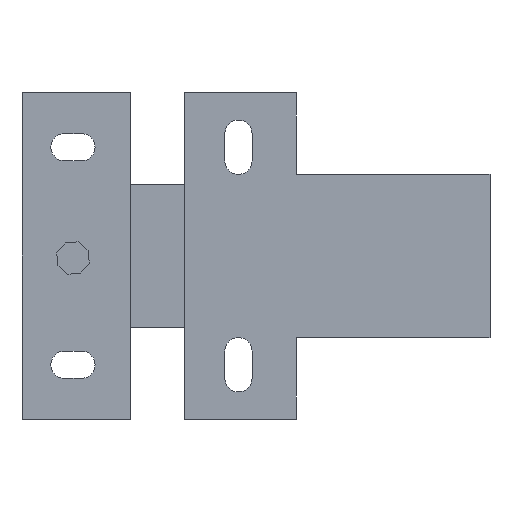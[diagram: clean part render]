
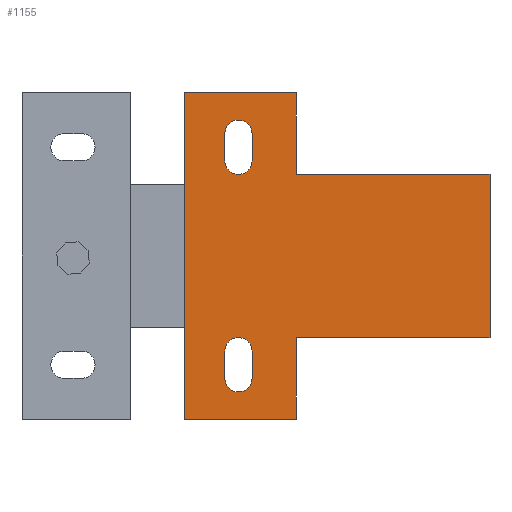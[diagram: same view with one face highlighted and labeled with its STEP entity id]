
A CAD part, front view. The second image highlights one B-rep face of the part: STEP entity #1155.
In plain terms, the highlighted planar face has unit normal (0, -1, 0).
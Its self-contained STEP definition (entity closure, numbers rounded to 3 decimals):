
#4 = DIRECTION ( 'NONE',  ( 0., -1., 0. ) ) ;
#13 = CARTESIAN_POINT ( 'NONE',  ( 24.341, 0., -2. ) ) ;
#21 = CARTESIAN_POINT ( 'NONE',  ( 24.341, 0., 2. ) ) ;
#23 = EDGE_CURVE ( 'NONE', #225, #1896, #1306, .T. ) ;
#39 = CARTESIAN_POINT ( 'NONE',  ( 24.341, 0., 30. ) ) ;
#50 = DIRECTION ( 'NONE',  ( 0., -1., 0. ) ) ;
#58 = CARTESIAN_POINT ( 'NONE',  ( 32.841, 0., -5. ) ) ;
#62 = VERTEX_POINT ( 'NONE', #1698 ) ;
#81 = DIRECTION ( 'NONE',  ( 0., 0., -1. ) ) ;
#129 = CIRCLE ( 'NONE', #1214, 2. ) ;
#154 = LINE ( 'NONE', #2039, #1863 ) ;
#180 = VERTEX_POINT ( 'NONE', #1273 ) ;
#186 = DIRECTION ( 'NONE',  ( 0., 0., -1. ) ) ;
#189 = EDGE_CURVE ( 'NONE', #180, #1955, #1186, .T. ) ;
#192 = CARTESIAN_POINT ( 'NONE',  ( 22.341, 0., -5. ) ) ;
#225 = VERTEX_POINT ( 'NONE', #298 ) ;
#232 = CARTESIAN_POINT ( 'NONE',  ( 24.341, 0., 30. ) ) ;
#253 = VECTOR ( 'NONE', #395, 1000. ) ;
#268 = CIRCLE ( 'NONE', #981, 2. ) ;
#270 = DIRECTION ( 'NONE',  ( 0., 0., -1. ) ) ;
#274 = ORIENTED_EDGE ( 'NONE', *, *, #709, .F. ) ;
#281 = ORIENTED_EDGE ( 'NONE', *, *, #1633, .F. ) ;
#295 = VECTOR ( 'NONE', #81, 1000. ) ;
#298 = CARTESIAN_POINT ( 'NONE',  ( 22.341, 0., -2. ) ) ;
#312 = DIRECTION ( 'NONE',  ( 0., 0., -1. ) ) ;
#323 = LINE ( 'NONE', #1095, #295 ) ;
#325 = CARTESIAN_POINT ( 'NONE',  ( 32.841, 0., 40. ) ) ;
#336 = CARTESIAN_POINT ( 'NONE',  ( 16.341, 0., 40. ) ) ;
#344 = CARTESIAN_POINT ( 'NONE',  ( 26.341, 0., 30. ) ) ;
#370 = ORIENTED_EDGE ( 'NONE', *, *, #1305, .F. ) ;
#388 = DIRECTION ( 'NONE',  ( 0., 0., -1. ) ) ;
#390 = CARTESIAN_POINT ( 'NONE',  ( 16.341, 0., -5. ) ) ;
#391 = EDGE_CURVE ( 'NONE', #1955, #62, #1589, .T. ) ;
#394 = LINE ( 'NONE', #1817, #253 ) ;
#395 = DIRECTION ( 'NONE',  ( 1., 0., 0. ) ) ;
#398 = LINE ( 'NONE', #58, #417 ) ;
#411 = CARTESIAN_POINT ( 'NONE',  ( 26.341, 0., -5. ) ) ;
#417 = VECTOR ( 'NONE', #270, 1000. ) ;
#444 = CARTESIAN_POINT ( 'NONE',  ( 24.341, 0., -2. ) ) ;
#451 = VECTOR ( 'NONE', #2037, 1000. ) ;
#452 = AXIS2_PLACEMENT_3D ( 'NONE', #1429, #1909, #186 ) ;
#453 = LINE ( 'NONE', #1994, #451 ) ;
#486 = ORIENTED_EDGE ( 'NONE', *, *, #494, .F. ) ;
#494 = EDGE_CURVE ( 'NONE', #1743, #1835, #825, .T. ) ;
#514 = EDGE_CURVE ( 'NONE', #62, #1717, #323, .T. ) ;
#523 = CARTESIAN_POINT ( 'NONE',  ( 32.841, 0., 28. ) ) ;
#546 = CARTESIAN_POINT ( 'NONE',  ( 29.841, 0., 28. ) ) ;
#547 = DIRECTION ( 'NONE',  ( 0., 0., 1. ) ) ;
#596 = VECTOR ( 'NONE', #1594, 1000. ) ;
#608 = ORIENTED_EDGE ( 'NONE', *, *, #514, .F. ) ;
#616 = EDGE_LOOP ( 'NONE', ( #1661, #1344, #978, #1886, #274 ) ) ;
#623 = ORIENTED_EDGE ( 'NONE', *, *, #23, .F. ) ;
#630 = DIRECTION ( 'NONE',  ( 0., -1., 0. ) ) ;
#641 = AXIS2_PLACEMENT_3D ( 'NONE', #13, #4, #1898 ) ;
#659 = EDGE_LOOP ( 'NONE', ( #852, #1462, #608, #1022, #1458, #1596, #281, #1350 ) ) ;
#661 = DIRECTION ( 'NONE',  ( 0., 0., -1. ) ) ;
#665 = VECTOR ( 'NONE', #2062, 1000. ) ;
#676 = CARTESIAN_POINT ( 'NONE',  ( 16.341, 0., -8. ) ) ;
#689 = CARTESIAN_POINT ( 'NONE',  ( 22.341, 0., 34. ) ) ;
#697 = CARTESIAN_POINT ( 'NONE',  ( 24.341, 0., -4. ) ) ;
#709 = EDGE_CURVE ( 'NONE', #866, #970, #1368, .T. ) ;
#721 = VECTOR ( 'NONE', #547, 1000. ) ;
#789 = LINE ( 'NONE', #390, #721 ) ;
#797 = CARTESIAN_POINT ( 'NONE',  ( 61.341, 0., -5. ) ) ;
#805 = EDGE_CURVE ( 'NONE', #948, #1948, #1897, .T. ) ;
#825 = CIRCLE ( 'NONE', #2017, 2. ) ;
#834 = LINE ( 'NONE', #192, #879 ) ;
#852 = ORIENTED_EDGE ( 'NONE', *, *, #1545, .F. ) ;
#866 = VERTEX_POINT ( 'NONE', #1097 ) ;
#879 = VECTOR ( 'NONE', #952, 1000. ) ;
#923 = VERTEX_POINT ( 'NONE', #325 ) ;
#932 = EDGE_CURVE ( 'NONE', #1377, #1743, #1523, .T. ) ;
#948 = VERTEX_POINT ( 'NONE', #1531 ) ;
#952 = DIRECTION ( 'NONE',  ( 0., 0., -1. ) ) ;
#969 = LINE ( 'NONE', #546, #1068 ) ;
#970 = VERTEX_POINT ( 'NONE', #344 ) ;
#978 = ORIENTED_EDGE ( 'NONE', *, *, #805, .F. ) ;
#981 = AXIS2_PLACEMENT_3D ( 'NONE', #232, #630, #388 ) ;
#996 = EDGE_CURVE ( 'NONE', #970, #948, #1757, .T. ) ;
#1006 = EDGE_CURVE ( 'NONE', #1166, #866, #268, .T. ) ;
#1018 = ORIENTED_EDGE ( 'NONE', *, *, #1813, .F. ) ;
#1020 = EDGE_CURVE ( 'NONE', #1948, #1166, #453, .T. ) ;
#1022 = ORIENTED_EDGE ( 'NONE', *, *, #391, .F. ) ;
#1053 = DIRECTION ( 'NONE',  ( 0., 1., 0. ) ) ;
#1068 = VECTOR ( 'NONE', #1608, 1000. ) ;
#1073 = PLANE ( 'NONE',  #1807 ) ;
#1095 = CARTESIAN_POINT ( 'NONE',  ( 32.841, 0., -5. ) ) ;
#1097 = CARTESIAN_POINT ( 'NONE',  ( 24.341, 0., 28. ) ) ;
#1101 = EDGE_LOOP ( 'NONE', ( #1177, #1018, #623, #370, #486 ) ) ;
#1139 = DIRECTION ( 'NONE',  ( 0., -1., 0. ) ) ;
#1155 = ADVANCED_FACE ( 'NONE', ( #1472, #2018, #1331 ), #1073, .F. ) ;
#1166 = VERTEX_POINT ( 'NONE', #1799 ) ;
#1177 = ORIENTED_EDGE ( 'NONE', *, *, #932, .F. ) ;
#1181 = DIRECTION ( 'NONE',  ( 0., 0., -1. ) ) ;
#1186 = LINE ( 'NONE', #797, #1202 ) ;
#1202 = VECTOR ( 'NONE', #312, 1000. ) ;
#1214 = AXIS2_PLACEMENT_3D ( 'NONE', #444, #1951, #1995 ) ;
#1229 = VERTEX_POINT ( 'NONE', #676 ) ;
#1273 = CARTESIAN_POINT ( 'NONE',  ( 61.341, 0., 28. ) ) ;
#1299 = CARTESIAN_POINT ( 'NONE',  ( 29.841, 0., -5. ) ) ;
#1305 = EDGE_CURVE ( 'NONE', #1835, #225, #834, .T. ) ;
#1306 = CIRCLE ( 'NONE', #641, 2. ) ;
#1331 = FACE_BOUND ( 'NONE', #1101, .T. ) ;
#1344 = ORIENTED_EDGE ( 'NONE', *, *, #1020, .F. ) ;
#1350 = ORIENTED_EDGE ( 'NONE', *, *, #1729, .F. ) ;
#1368 = CIRCLE ( 'NONE', #1928, 2. ) ;
#1377 = VERTEX_POINT ( 'NONE', #1878 ) ;
#1429 = CARTESIAN_POINT ( 'NONE',  ( 24.341, 0., 34. ) ) ;
#1458 = ORIENTED_EDGE ( 'NONE', *, *, #189, .F. ) ;
#1462 = ORIENTED_EDGE ( 'NONE', *, *, #1860, .F. ) ;
#1471 = EDGE_CURVE ( 'NONE', #2011, #180, #969, .T. ) ;
#1472 = FACE_OUTER_BOUND ( 'NONE', #659, .T. ) ;
#1523 = LINE ( 'NONE', #1544, #596 ) ;
#1531 = CARTESIAN_POINT ( 'NONE',  ( 26.341, 0., 34. ) ) ;
#1544 = CARTESIAN_POINT ( 'NONE',  ( 26.341, 0., -5. ) ) ;
#1545 = EDGE_CURVE ( 'NONE', #1229, #2024, #789, .T. ) ;
#1561 = VECTOR ( 'NONE', #1875, 1000. ) ;
#1589 = LINE ( 'NONE', #1880, #1561 ) ;
#1594 = DIRECTION ( 'NONE',  ( 0., 0., 1. ) ) ;
#1596 = ORIENTED_EDGE ( 'NONE', *, *, #1471, .F. ) ;
#1600 = CARTESIAN_POINT ( 'NONE',  ( 61.341, 0., 4. ) ) ;
#1608 = DIRECTION ( 'NONE',  ( 1., 0., 0. ) ) ;
#1633 = EDGE_CURVE ( 'NONE', #923, #2011, #398, .T. ) ;
#1637 = CARTESIAN_POINT ( 'NONE',  ( 32.841, 0., -8. ) ) ;
#1661 = ORIENTED_EDGE ( 'NONE', *, *, #1006, .F. ) ;
#1698 = CARTESIAN_POINT ( 'NONE',  ( 32.841, 0., 4. ) ) ;
#1717 = VERTEX_POINT ( 'NONE', #1637 ) ;
#1729 = EDGE_CURVE ( 'NONE', #2024, #923, #394, .T. ) ;
#1736 = CARTESIAN_POINT ( 'NONE',  ( 22.341, 0., 2. ) ) ;
#1743 = VERTEX_POINT ( 'NONE', #2060 ) ;
#1757 = LINE ( 'NONE', #411, #665 ) ;
#1799 = CARTESIAN_POINT ( 'NONE',  ( 22.341, 0., 30. ) ) ;
#1807 = AXIS2_PLACEMENT_3D ( 'NONE', #1299, #1053, #1845 ) ;
#1813 = EDGE_CURVE ( 'NONE', #1896, #1377, #129, .T. ) ;
#1817 = CARTESIAN_POINT ( 'NONE',  ( 29.841, 0., 40. ) ) ;
#1835 = VERTEX_POINT ( 'NONE', #1736 ) ;
#1845 = DIRECTION ( 'NONE',  ( 0., 0., 1. ) ) ;
#1860 = EDGE_CURVE ( 'NONE', #1717, #1229, #154, .T. ) ;
#1863 = VECTOR ( 'NONE', #1980, 1000. ) ;
#1875 = DIRECTION ( 'NONE',  ( -1., 0., 0. ) ) ;
#1878 = CARTESIAN_POINT ( 'NONE',  ( 26.341, 0., -2. ) ) ;
#1880 = CARTESIAN_POINT ( 'NONE',  ( 29.841, 0., 4. ) ) ;
#1886 = ORIENTED_EDGE ( 'NONE', *, *, #996, .F. ) ;
#1896 = VERTEX_POINT ( 'NONE', #697 ) ;
#1897 = CIRCLE ( 'NONE', #452, 2. ) ;
#1898 = DIRECTION ( 'NONE',  ( 0., 0., -1. ) ) ;
#1909 = DIRECTION ( 'NONE',  ( 0., -1., 0. ) ) ;
#1928 = AXIS2_PLACEMENT_3D ( 'NONE', #39, #50, #661 ) ;
#1948 = VERTEX_POINT ( 'NONE', #689 ) ;
#1951 = DIRECTION ( 'NONE',  ( 0., -1., 0. ) ) ;
#1955 = VERTEX_POINT ( 'NONE', #1600 ) ;
#1980 = DIRECTION ( 'NONE',  ( -1., 0., 0. ) ) ;
#1994 = CARTESIAN_POINT ( 'NONE',  ( 22.341, 0., -5. ) ) ;
#1995 = DIRECTION ( 'NONE',  ( 0., 0., -1. ) ) ;
#2011 = VERTEX_POINT ( 'NONE', #523 ) ;
#2017 = AXIS2_PLACEMENT_3D ( 'NONE', #21, #1139, #1181 ) ;
#2018 = FACE_BOUND ( 'NONE', #616, .T. ) ;
#2024 = VERTEX_POINT ( 'NONE', #336 ) ;
#2037 = DIRECTION ( 'NONE',  ( 0., 0., -1. ) ) ;
#2039 = CARTESIAN_POINT ( 'NONE',  ( 29.841, 0., -8. ) ) ;
#2060 = CARTESIAN_POINT ( 'NONE',  ( 26.341, 0., 2. ) ) ;
#2062 = DIRECTION ( 'NONE',  ( 0., 0., 1. ) ) ;
